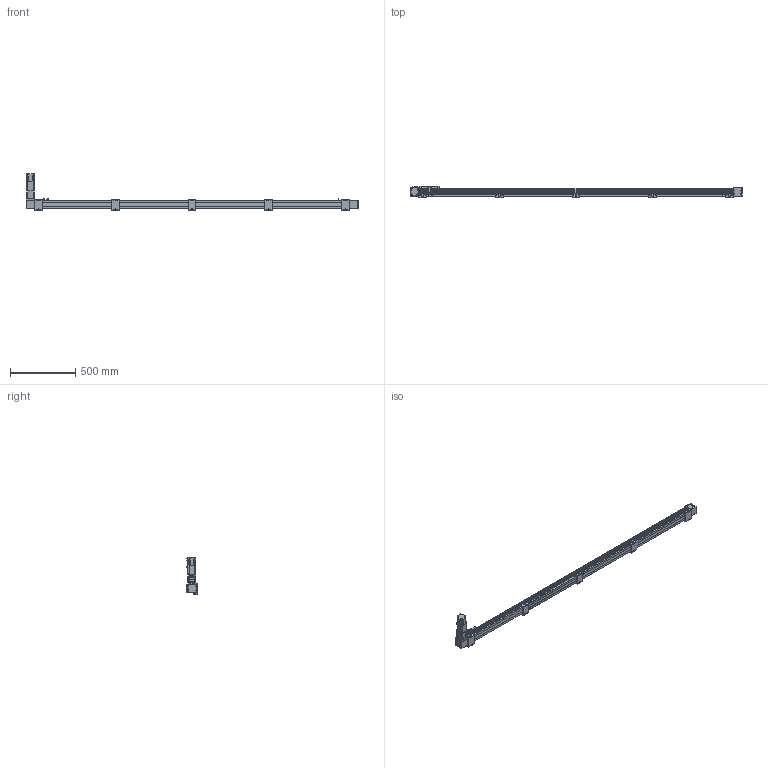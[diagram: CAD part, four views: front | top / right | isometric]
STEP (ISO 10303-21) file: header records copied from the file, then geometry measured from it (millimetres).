
FILE_DESCRIPTION(/* description */ ('STEP AP203'),/* implementation_level */ '2;1');
FILE_NAME(/* name */ 'SK60-P13-S2250-BL-T40-C1-N(0)',/* time_stamp */ '2023-04-06T03:37:48+02:00',/* author */ ('License CC BY-ND 4.0'),/* organization */ ('CADENAS'),/* preprocessor_version */ 'ST-DEVELOPER v19.3',/* originating_system */ 'PARTsolutions',/* authorisation */ ' ');
FILE_SCHEMA (('CONFIG_CONTROL_DESIGN'));
Length unit declared in the file: millimetre
Products named in the file (11): SK60-P13-S2250-BL-T40-C1-N(0); PSC140-sensor; SK60-S450_seat; SK60-S450-BL-C1_slider; SK60_body3; SK60_body6; SK60-BL_body2; T40-p1; SK60_body5; SK60_body4; SK60-S2250-BL-C1_body
Assembly tree (20 placements, depth 2):
  SK60-P13-S2250-BL-T40-C1-N(0)
    PSC140-sensor  x3
    SK60-S450_seat  x5
    SK60-S450-BL-C1_slider
    SK60_body3  x3
    SK60_body6  x2
    SK60-BL_body2  x2
    T40-p1
    SK60_body5
    SK60_body4
    SK60-S2250-BL-C1_body
Bounding box: 2550 x 90 x 278.2 mm (x, y, z)
Volume: 9270135.4 mm3; surface area: 1143894.5 mm2
Topology: 20 solids, 24 shells, 966 faces, 2403 edges, 1586 vertices
Faces by surface type: plane 616, cylinder 314, cone 34, torus 2
Full cylindrical faces by diameter (mm): 2.8 x3, 3.3 x4, 4.2 x8, 4.5 x26, 4.6 x3, 4.917 x28, 5 x2, 5.478 x4, 5.5 x31, 6.5 x10, 8 x4, 8.5 x4, 9.988 x4, 10 x20, 13.556 x1, 14 x1, 14.586 x1, 19.692 x1, 38.432 x2, 43 x1, 44 x3, 47 x2, 50 x2
Entity records: 19395 total; most frequent: DIRECTION 3298, CARTESIAN_POINT 3292, ORIENTED_EDGE 3050, EDGE_CURVE 1525, AXIS2_PLACEMENT_3D 1103, LINE 1092, VECTOR 1092, VERTEX_POINT 1077
